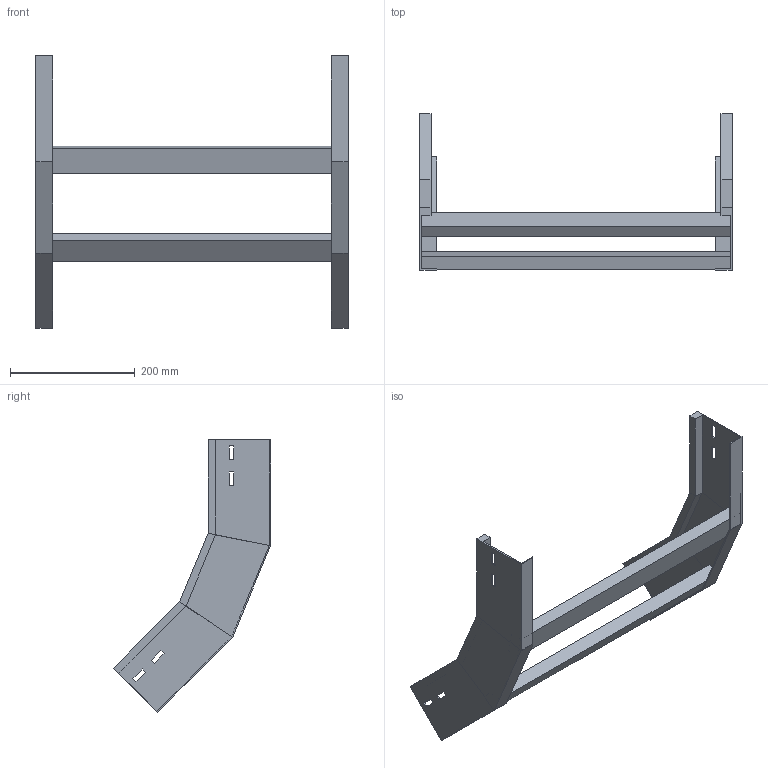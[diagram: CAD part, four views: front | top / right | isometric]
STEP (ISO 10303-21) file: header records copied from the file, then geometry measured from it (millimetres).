
FILE_DESCRIPTION (( 'STEP AP214' ), '1' );
FILE_NAME ('A2X31B3D500XX.step', '2025-03-20T10:04:01', ( '' ), ( '' ), 'SwSTEP 2.0', 'SolidWorks 2023', '' );
FILE_SCHEMA (( 'AUTOMOTIVE_DESIGN' ));
Length unit declared in the file: millimetre
Products named in the file (3): A2X31B3D500XX; TRAVERSINO_500; LONGH.SALITA_45°_H100_R300
Assembly tree (4 placements, depth 2):
  A2X31B3D500XX
    LONGH.SALITA_45°_H100_R300  x2
    TRAVERSINO_500  x2
Bounding box: 500 x 251.29 x 435.96 mm (x, y, z)
Volume: 1196310.5 mm3; surface area: 387091 mm2
Topology: 4 solids, 4 shells, 96 faces, 232 edges, 144 vertices
Faces by surface type: plane 96
Entity records: 1472 total; most frequent: CARTESIAN_POINT 243, ORIENTED_EDGE 232, DIRECTION 226, EDGE_CURVE 116, LINE 116, VECTOR 116, VERTEX_POINT 72, EDGE_LOOP 56
